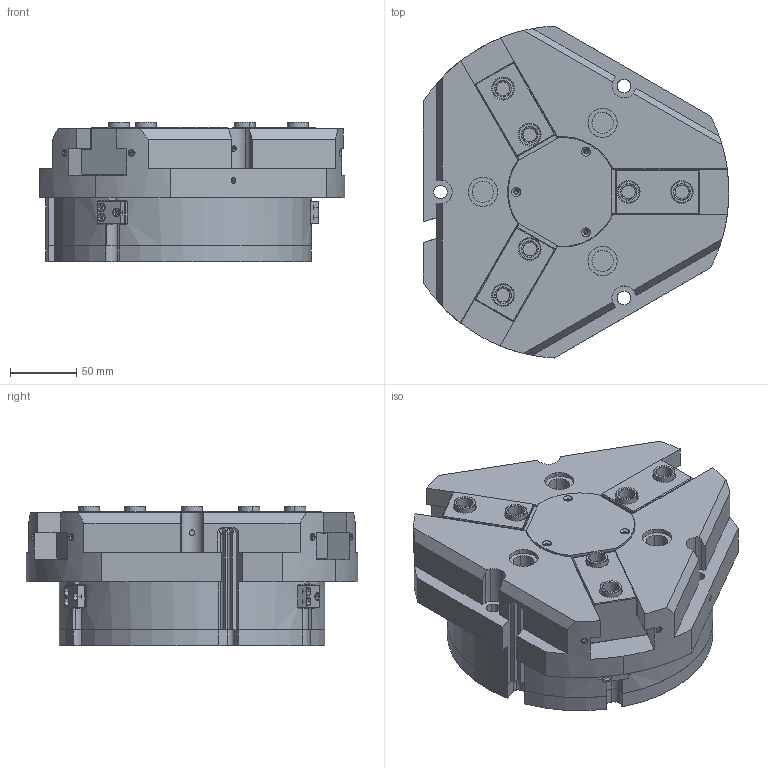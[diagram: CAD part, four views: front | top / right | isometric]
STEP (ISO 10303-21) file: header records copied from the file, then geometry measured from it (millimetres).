
FILE_DESCRIPTION (( 'STEP AP214' ), '1' );
FILE_NAME ('FCT 200A-1.STEP', '2021-09-17T11:24:42', ( 'DEEP' ), ( 'Microsoft' ), 'SwSTEP 2.0', 'SolidWorks 2016', '' );
FILE_SCHEMA (( 'AUTOMOTIVE_DESIGN' ));
Length unit declared in the file: millimetre
Products named in the file (22): 8瘍隅弇杶A_2_1; FCT200A-1-01-008A_2_1; FCT200A-1-01-002A_1_1; FCT200A-1-01-004A_1_1; FCT200A-1-01-001A_1_1; FCT 200A-1; FPT-000-1-01-003A_1_1
Assembly tree (15 placements, depth 2):
  8瘍隅弇杶A_2_1
  8瘍隅弇杶A_2_1
  FCT200A-1-01-008A_2_1
  FCT200A-1-01-008A_2_1
  FCT200A-1-01-008A_2_1
Bounding box: 230 x 249.69 x 104.8 mm (x, y, z)
Volume: 3402122.8 mm3; surface area: 350864.4 mm2
Topology: 15 solids, 15 shells, 744 faces, 1879 edges, 1188 vertices
Faces by surface type: plane 333, cylinder 285, cone 118, bspline 8
Entity records: 22426 total; most frequent: CARTESIAN_POINT 4344, DIRECTION 2605, ORIENTED_EDGE 2482, EDGE_CURVE 1241, AXIS2_PLACEMENT_3D 947, VERTEX_POINT 812, VECTOR 711, LINE 711
